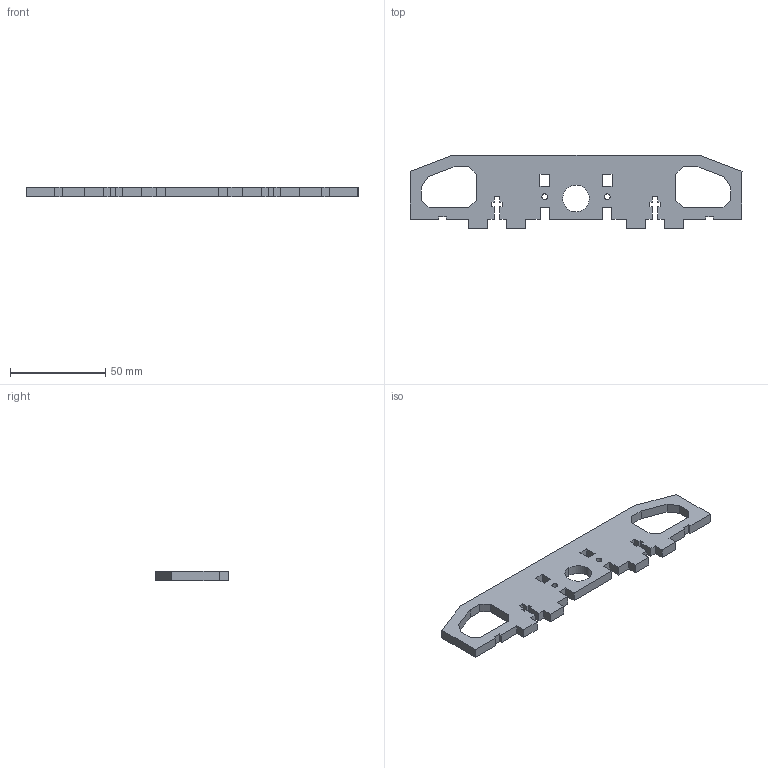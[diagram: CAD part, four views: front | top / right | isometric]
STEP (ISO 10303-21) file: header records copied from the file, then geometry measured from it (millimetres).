
FILE_DESCRIPTION(/* description */ (''),/* implementation_level */ '2;1');
FILE_NAME(/* name */ 'SOEFCC~1',/* time_stamp */ '2019-04-01T21:22:08-03:00',/* author */ (''),/* organization */ (''),/* preprocessor_version */ 'ST-DEVELOPER v16.5',/* originating_system */ '',/* authorisation */ '');
FILE_SCHEMA (('AUTOMOTIVE_DESIGN'));
Length unit declared in the file: millimetre
Products named in the file (1): Document
Bounding box: 174.64 x 38.73 x 5 mm (x, y, z)
Volume: 22595.8 mm3; surface area: 13188 mm2
Topology: 1 solids, 1 shells, 97 faces, 285 edges, 190 vertices
Faces by surface type: plane 91, bspline 6
Entity records: 2896 total; most frequent: CARTESIAN_POINT 967, ORIENTED_EDGE 570, EDGE_CURVE 285, B_SPLINE_CURVE_WITH_KNOTS 267, VERTEX_POINT 190, EDGE_LOOP 111, ADVANCED_FACE 97, FACE_OUTER_BOUND 97
